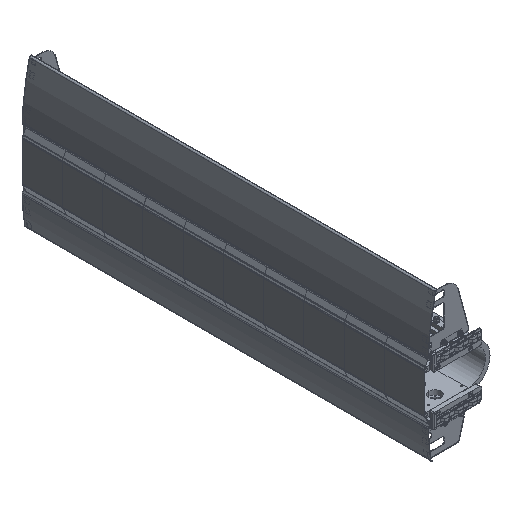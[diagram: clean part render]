
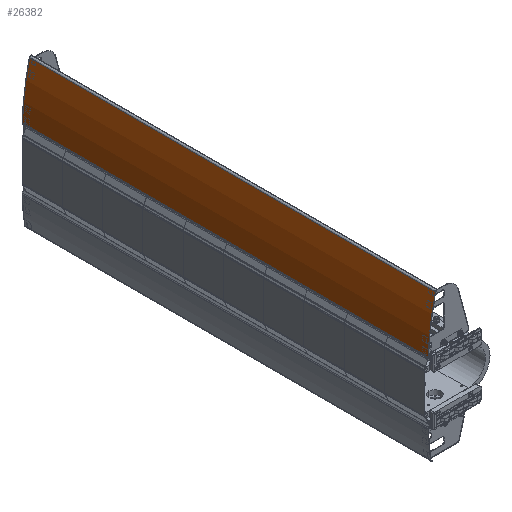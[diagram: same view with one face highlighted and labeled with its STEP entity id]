
A CAD part, isometric view. The second image highlights one B-rep face of the part: STEP entity #26382.
In plain terms, the highlighted cylindrical face has radius 602 mm (diameter 1204 mm), a partial arc.
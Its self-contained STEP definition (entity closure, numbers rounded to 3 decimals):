
#26355=AXIS2_PLACEMENT_3D('Cylinder Axis2P3D',#26352,#26353,#26354) ;
#26359=AXIS2_PLACEMENT_3D('Circle Axis2P3D',#26357,#26358,$) ;
#26373=AXIS2_PLACEMENT_3D('Circle Axis2P3D',#26371,#26372,$) ;
#26330=CARTESIAN_POINT('Vertex',(2.193,-434.,-61.92)) ;
#26333=CARTESIAN_POINT('Line Origine',(2.193,0.,-61.92)) ;
#26337=CARTESIAN_POINT('Vertex',(2.193,434.,-61.92)) ;
#26352=CARTESIAN_POINT('Axis2P3D Location',(601.,0.,0.)) ;
#26357=CARTESIAN_POINT('Axis2P3D Location',(601.,-434.,0.)) ;
#26361=CARTESIAN_POINT('Vertex',(1.28,-434.,52.348)) ;
#26364=CARTESIAN_POINT('Line Origine',(1.28,0.,52.348)) ;
#26368=CARTESIAN_POINT('Vertex',(1.28,434.,52.348)) ;
#26371=CARTESIAN_POINT('Axis2P3D Location',(601.,434.,0.)) ;
#26334=DIRECTION('Vector Direction',(0.,1.,0.)) ;
#26353=DIRECTION('Axis2P3D Direction',(0.,1.,-0.)) ;
#26354=DIRECTION('Axis2P3D XDirection',(-0.995,0.,-0.103)) ;
#26358=DIRECTION('Axis2P3D Direction',(0.,1.,-0.)) ;
#26365=DIRECTION('Vector Direction',(0.,1.,0.)) ;
#26372=DIRECTION('Axis2P3D Direction',(0.,1.,-0.)) ;
#26335=VECTOR('Line Direction',#26334,1.) ;
#26366=VECTOR('Line Direction',#26365,1.) ;
#26377=ORIENTED_EDGE('',*,*,#26339,.F.) ;
#26378=ORIENTED_EDGE('',*,*,#26363,.T.) ;
#26379=ORIENTED_EDGE('',*,*,#26370,.T.) ;
#26380=ORIENTED_EDGE('',*,*,#26375,.F.) ;
#26382=ADVANCED_FACE('PartBody',(#26381),#26356,.T.) ;
#26360=CIRCLE('generated circle',#26359,602.) ;
#26374=CIRCLE('generated circle',#26373,602.) ;
#26356=CYLINDRICAL_SURFACE('generated cylinder',#26355,602.) ;
#26339=EDGE_CURVE('',#26331,#26338,#26336,.T.) ;
#26363=EDGE_CURVE('',#26331,#26362,#26360,.T.) ;
#26370=EDGE_CURVE('',#26362,#26369,#26367,.T.) ;
#26375=EDGE_CURVE('',#26338,#26369,#26374,.T.) ;
#26376=EDGE_LOOP('',(#26377,#26378,#26379,#26380)) ;
#26381=FACE_OUTER_BOUND('',#26376,.T.) ;
#26336=LINE('Line',#26333,#26335) ;
#26367=LINE('Line',#26364,#26366) ;
#26331=VERTEX_POINT('',#26330) ;
#26338=VERTEX_POINT('',#26337) ;
#26362=VERTEX_POINT('',#26361) ;
#26369=VERTEX_POINT('',#26368) ;
